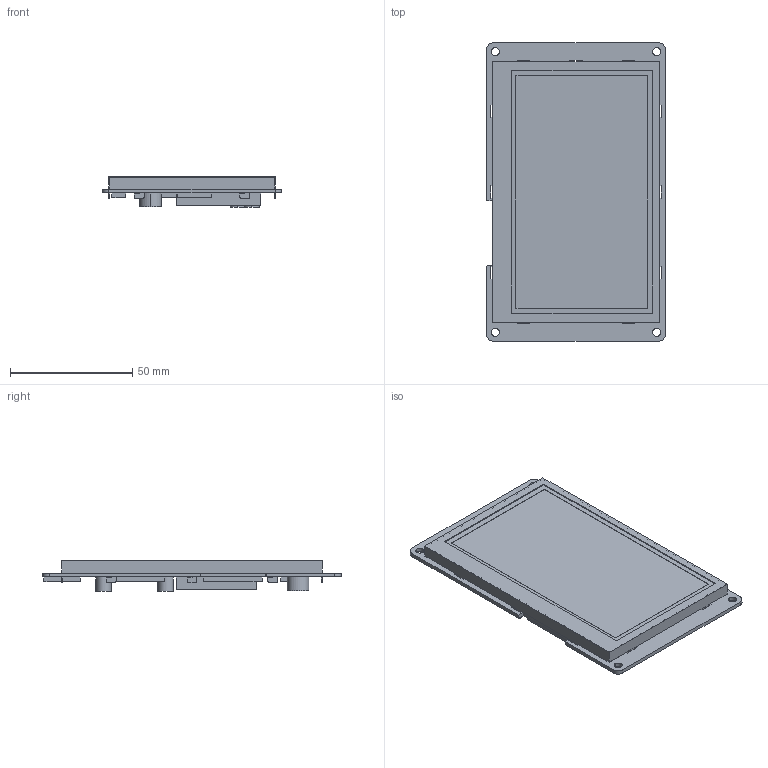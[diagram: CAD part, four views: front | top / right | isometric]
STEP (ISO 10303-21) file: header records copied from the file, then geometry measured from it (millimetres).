
FILE_DESCRIPTION((''),'2;1');
FILE_NAME('3D-DMG48270C043-05WN-241219','2024-12-19T',('Administrator'),(''),'PRO/ENGINEER BY PARAMETRIC TECHNOLOGY CORPORATION, 2011310','PRO/ENGINEER BY PARAMETRIC TECHNOLOGY CORPORATION, 2011310','');
FILE_SCHEMA(('CONFIG_CONTROL_DESIGN','SHAPE_APPEARANCE_LAYERS_GROUPS'));
Length unit declared in the file: millimetre
Products named in the file (1): 3D-DMG48270C043-05WN-241219
Bounding box: 73.15 x 121.92 x 12.4 mm (x, y, z)
Volume: 44132.2 mm3; surface area: 39084.8 mm2
Topology: 1 solids, 1 shells, 264 faces, 758 edges, 498 vertices
Faces by surface type: plane 211, cylinder 53
Entity records: 10434 total; most frequent: CARTESIAN_POINT 1520, ORIENTED_EDGE 1516, DIRECTION 1394, EDGE_CURVE 758, VECTOR 650, LINE 650, VERTEX_POINT 498, AXIS2_PLACEMENT_3D 372
